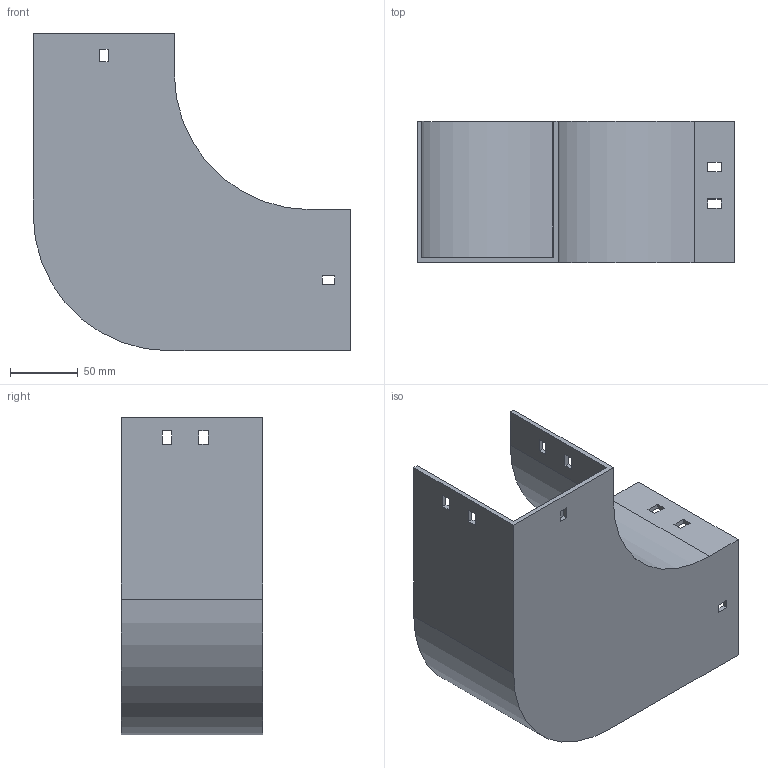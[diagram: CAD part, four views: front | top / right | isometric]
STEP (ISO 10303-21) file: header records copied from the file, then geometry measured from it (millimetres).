
FILE_DESCRIPTION (( 'STEP AP214' ), '1' );
FILE_NAME ('10F1D100.step', '2025-02-21T12:56:22', ( '' ), ( '' ), 'SwSTEP 2.0', 'SolidWorks 2023', '' );
FILE_SCHEMA (( 'AUTOMOTIVE_DESIGN' ));
Length unit declared in the file: millimetre
Products named in the file (1): 10F1D100
Bounding box: 234 x 104 x 234 mm (x, y, z)
Volume: 356006 mm3; surface area: 208983.6 mm2
Topology: 1 solids, 1 shells, 58 faces, 168 edges, 112 vertices
Faces by surface type: plane 54, cylinder 4
Entity records: 1943 total; most frequent: CARTESIAN_POINT 339, ORIENTED_EDGE 336, DIRECTION 294, EDGE_CURVE 168, VECTOR 160, LINE 160, VERTEX_POINT 112, EDGE_LOOP 78
